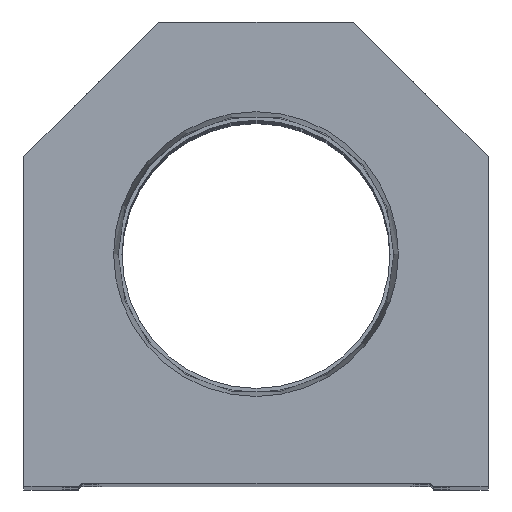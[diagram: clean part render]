
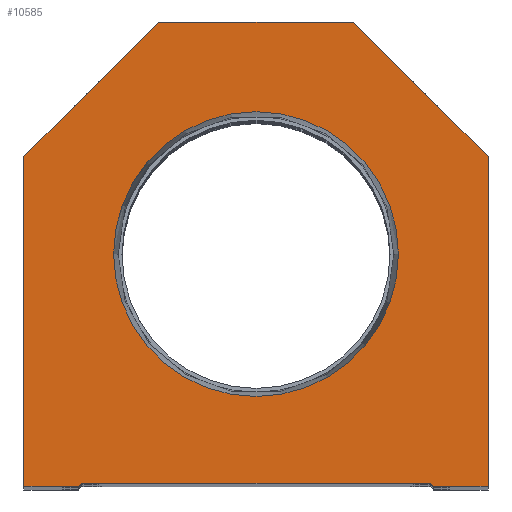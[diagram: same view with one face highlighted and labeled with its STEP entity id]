
A CAD part, top view. The second image highlights one B-rep face of the part: STEP entity #10585.
In plain terms, the highlighted planar face has unit normal (0, 0, 1).
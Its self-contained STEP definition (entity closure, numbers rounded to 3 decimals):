
#893 = EDGE_LOOP ( 'NONE', ( #7221, #13936 ) ) ;
#927 = VERTEX_POINT ( 'NONE', #13213 ) ;
#1037 = VERTEX_POINT ( 'NONE', #12093 ) ;
#1046 = CARTESIAN_POINT ( 'NONE',  ( 16., 76.2, 0. ) ) ;
#1338 = CARTESIAN_POINT ( 'NONE',  ( 0., 38.1, 0. ) ) ;
#1801 = DIRECTION ( 'NONE',  ( 1., 0., 0. ) ) ;
#2007 = CARTESIAN_POINT ( 'NONE',  ( -16., 76.2, 0. ) ) ;
#2122 = VECTOR ( 'NONE', #9116, 1000. ) ;
#2223 = EDGE_CURVE ( 'NONE', #17762, #21638, #7838, .T. ) ;
#2549 = CARTESIAN_POINT ( 'NONE',  ( 38.1, 54.1, 0. ) ) ;
#2761 = ORIENTED_EDGE ( 'NONE', *, *, #21150, .T. ) ;
#3187 = DIRECTION ( 'NONE',  ( 0.707, 0.707, 0. ) ) ;
#4021 = VERTEX_POINT ( 'NONE', #7911 ) ;
#4234 = VECTOR ( 'NONE', #7929, 1000. ) ;
#4705 = EDGE_CURVE ( 'NONE', #21638, #9871, #16352, .T. ) ;
#5297 = ORIENTED_EDGE ( 'NONE', *, *, #4705, .T. ) ;
#5374 = DIRECTION ( 'NONE',  ( 0., 0., 1. ) ) ;
#5522 = ORIENTED_EDGE ( 'NONE', *, *, #15741, .T. ) ;
#5960 = CARTESIAN_POINT ( 'NONE',  ( 28.6, 0.5, 0. ) ) ;
#6056 = AXIS2_PLACEMENT_3D ( 'NONE', #24902, #12340, #1801 ) ;
#6148 = VECTOR ( 'NONE', #25080, 1000. ) ;
#6205 = ORIENTED_EDGE ( 'NONE', *, *, #15468, .T. ) ;
#6397 = LINE ( 'NONE', #21677, #2122 ) ;
#6914 = ORIENTED_EDGE ( 'NONE', *, *, #8854, .T. ) ;
#6928 = ORIENTED_EDGE ( 'NONE', *, *, #12314, .T. ) ;
#7221 = ORIENTED_EDGE ( 'NONE', *, *, #12892, .F. ) ;
#7315 = VERTEX_POINT ( 'NONE', #17586 ) ;
#7382 = CARTESIAN_POINT ( 'NONE',  ( 29.1, 0., 0. ) ) ;
#7399 = DIRECTION ( 'NONE',  ( 1., 0., 0. ) ) ;
#7471 = DIRECTION ( 'NONE',  ( 1., 0., 0. ) ) ;
#7790 = FACE_BOUND ( 'NONE', #893, .T. ) ;
#7838 = LINE ( 'NONE', #20112, #27262 ) ;
#7911 = CARTESIAN_POINT ( 'NONE',  ( -29.1, 0., 0. ) ) ;
#7929 = DIRECTION ( 'NONE',  ( 0., 1., 0. ) ) ;
#8198 = FACE_OUTER_BOUND ( 'NONE', #16574, .T. ) ;
#8854 = EDGE_CURVE ( 'NONE', #4021, #927, #11082, .T. ) ;
#9026 = EDGE_CURVE ( 'NONE', #9871, #16434, #18394, .T. ) ;
#9116 = DIRECTION ( 'NONE',  ( 1., 0., 0. ) ) ;
#9871 = VERTEX_POINT ( 'NONE', #18527 ) ;
#10375 = CARTESIAN_POINT ( 'NONE',  ( 16., 76.2, 0. ) ) ;
#10585 = ADVANCED_FACE ( 'NONE', ( #7790, #8198 ), #16190, .T. ) ;
#10987 = EDGE_CURVE ( 'NONE', #19190, #1037, #19287, .T. ) ;
#11000 = DIRECTION ( 'NONE',  ( -0.707, 0.707, 0. ) ) ;
#11079 = ORIENTED_EDGE ( 'NONE', *, *, #9026, .T. ) ;
#11082 = LINE ( 'NONE', #17430, #16614 ) ;
#11930 = CARTESIAN_POINT ( 'NONE',  ( 38.1, 54.1, 0. ) ) ;
#12093 = CARTESIAN_POINT ( 'NONE',  ( 23.374, 38.1, 0. ) ) ;
#12314 = EDGE_CURVE ( 'NONE', #12539, #4021, #17875, .T. ) ;
#12340 = DIRECTION ( 'NONE',  ( 0., 0., 1. ) ) ;
#12539 = VERTEX_POINT ( 'NONE', #22401 ) ;
#12565 = CARTESIAN_POINT ( 'NONE',  ( -38.1, 0., 0. ) ) ;
#12589 = DIRECTION ( 'NONE',  ( -1., 0., 0. ) ) ;
#12748 = VECTOR ( 'NONE', #11000, 1000. ) ;
#12892 = EDGE_CURVE ( 'NONE', #1037, #19190, #19308, .T. ) ;
#13075 = LINE ( 'NONE', #2549, #12748 ) ;
#13213 = CARTESIAN_POINT ( 'NONE',  ( -28.6, 0.5, 0. ) ) ;
#13936 = ORIENTED_EDGE ( 'NONE', *, *, #10987, .F. ) ;
#14501 = LINE ( 'NONE', #12565, #19631 ) ;
#14886 = AXIS2_PLACEMENT_3D ( 'NONE', #21224, #21351, #16924 ) ;
#15110 = EDGE_CURVE ( 'NONE', #927, #17762, #6397, .T. ) ;
#15468 = EDGE_CURVE ( 'NONE', #16434, #26248, #13075, .T. ) ;
#15741 = EDGE_CURVE ( 'NONE', #16768, #7315, #18448, .T. ) ;
#16190 = PLANE ( 'NONE',  #6056 ) ;
#16352 = LINE ( 'NONE', #24184, #23455 ) ;
#16434 = VERTEX_POINT ( 'NONE', #11930 ) ;
#16459 = ORIENTED_EDGE ( 'NONE', *, *, #2223, .T. ) ;
#16574 = EDGE_LOOP ( 'NONE', ( #6928, #6914, #26438, #16459, #5297, #11079, #6205, #2761, #5522, #22272 ) ) ;
#16614 = VECTOR ( 'NONE', #3187, 1000. ) ;
#16768 = VERTEX_POINT ( 'NONE', #2007 ) ;
#16829 = DIRECTION ( 'NONE',  ( 0., -1., 0. ) ) ;
#16924 = DIRECTION ( 'NONE',  ( 1., 0., 0. ) ) ;
#17430 = CARTESIAN_POINT ( 'NONE',  ( -14.55, 14.55, 0. ) ) ;
#17586 = CARTESIAN_POINT ( 'NONE',  ( -38.1, 54.1, 0. ) ) ;
#17762 = VERTEX_POINT ( 'NONE', #5960 ) ;
#17875 = LINE ( 'NONE', #26298, #18435 ) ;
#18394 = LINE ( 'NONE', #26822, #4234 ) ;
#18435 = VECTOR ( 'NONE', #7399, 1000. ) ;
#18448 = LINE ( 'NONE', #26875, #6148 ) ;
#18449 = DIRECTION ( 'NONE',  ( 0.707, -0.707, 0. ) ) ;
#18527 = CARTESIAN_POINT ( 'NONE',  ( 38.1, 0., 0. ) ) ;
#19190 = VERTEX_POINT ( 'NONE', #19960 ) ;
#19287 = CIRCLE ( 'NONE', #14886, 23.374 ) ;
#19308 = CIRCLE ( 'NONE', #26839, 23.374 ) ;
#19631 = VECTOR ( 'NONE', #16829, 1000. ) ;
#19960 = CARTESIAN_POINT ( 'NONE',  ( -23.374, 38.1, 0. ) ) ;
#20112 = CARTESIAN_POINT ( 'NONE',  ( 14.55, 14.55, 0. ) ) ;
#21150 = EDGE_CURVE ( 'NONE', #26248, #16768, #25021, .T. ) ;
#21224 = CARTESIAN_POINT ( 'NONE',  ( 0., 38.1, 0. ) ) ;
#21334 = VECTOR ( 'NONE', #12589, 1000. ) ;
#21351 = DIRECTION ( 'NONE',  ( 0., 0., 1. ) ) ;
#21638 = VERTEX_POINT ( 'NONE', #7382 ) ;
#21677 = CARTESIAN_POINT ( 'NONE',  ( -28.6, 0.5, 0. ) ) ;
#22272 = ORIENTED_EDGE ( 'NONE', *, *, #22547, .T. ) ;
#22401 = CARTESIAN_POINT ( 'NONE',  ( -38.1, 0., 0. ) ) ;
#22547 = EDGE_CURVE ( 'NONE', #7315, #12539, #14501, .T. ) ;
#23455 = VECTOR ( 'NONE', #24795, 1000. ) ;
#24184 = CARTESIAN_POINT ( 'NONE',  ( 28.6, 0., 0. ) ) ;
#24795 = DIRECTION ( 'NONE',  ( 1., 0., 0. ) ) ;
#24902 = CARTESIAN_POINT ( 'NONE',  ( 0., 0., 0. ) ) ;
#25021 = LINE ( 'NONE', #10375, #21334 ) ;
#25080 = DIRECTION ( 'NONE',  ( -0.707, -0.707, 0. ) ) ;
#26248 = VERTEX_POINT ( 'NONE', #1046 ) ;
#26298 = CARTESIAN_POINT ( 'NONE',  ( -28.6, 0., 0. ) ) ;
#26438 = ORIENTED_EDGE ( 'NONE', *, *, #15110, .T. ) ;
#26822 = CARTESIAN_POINT ( 'NONE',  ( 38.1, 0., 0. ) ) ;
#26839 = AXIS2_PLACEMENT_3D ( 'NONE', #1338, #5374, #7471 ) ;
#26875 = CARTESIAN_POINT ( 'NONE',  ( -38.1, 54.1, 0. ) ) ;
#27262 = VECTOR ( 'NONE', #18449, 1000. ) ;
